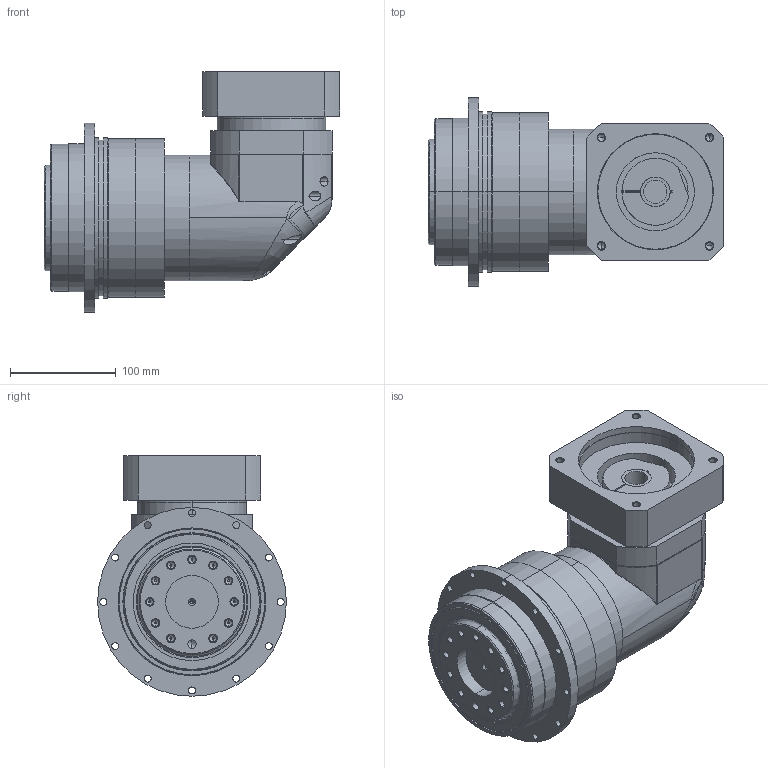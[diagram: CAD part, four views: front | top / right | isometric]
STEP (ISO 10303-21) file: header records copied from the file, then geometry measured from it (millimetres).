
FILE_DESCRIPTION (( 'STEP AP203' ), '1' );
FILE_NAME ('ADR140-L2-22-110-145-M8.STEP', '2024-04-17T08:38:53', ( '' ), ( '' ), 'SwSTEP 2.0', 'SolidWorks 2015', '' );
FILE_SCHEMA (( 'CONFIG_CONTROL_DESIGN' ));
Length unit declared in the file: millimetre
Products named in the file (1): ADR140-L2-22-110-145-M8
Bounding box: 280.5 x 179 x 228 mm (x, y, z)
Volume: 3780415 mm3; surface area: 444154.4 mm2
Topology: 9 solids, 10 shells, 552 faces, 1303 edges, 781 vertices
Faces by surface type: cylinder 219, cone 150, plane 89, bspline 88, torus 6
Entity records: 24716 total; most frequent: CARTESIAN_POINT 12510, ORIENTED_EDGE 2538, DIRECTION 2440, EDGE_CURVE 1269, AXIS2_PLACEMENT_3D 1001, VERTEX_POINT 781, EDGE_LOOP 670, ADVANCED_FACE 552
